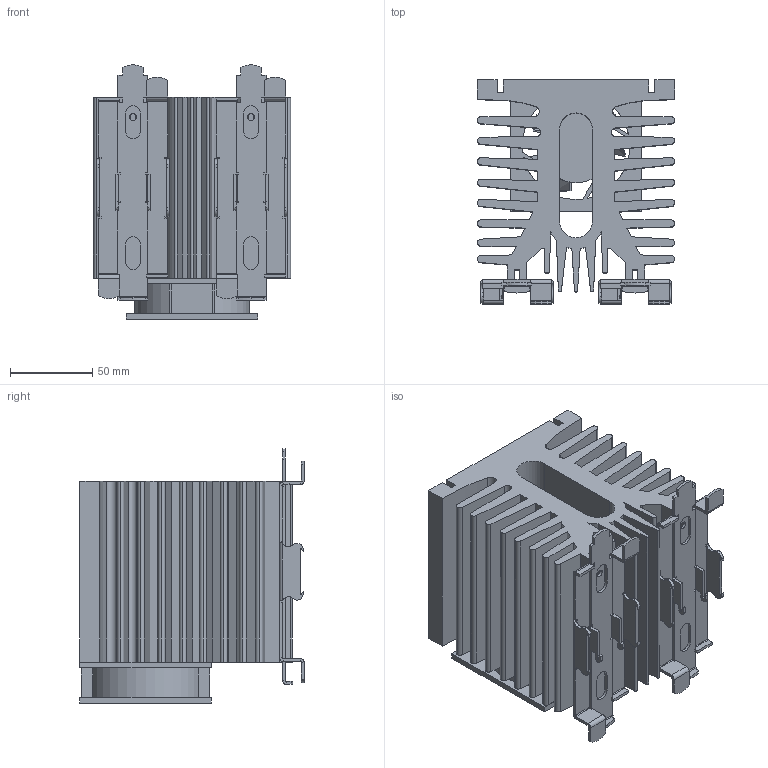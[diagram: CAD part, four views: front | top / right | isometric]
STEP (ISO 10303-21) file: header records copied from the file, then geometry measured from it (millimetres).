
FILE_DESCRIPTION (( 'STEP AP203' ), '1' );
FILE_NAME ('HP-02-F.STEP', '2026-04-16T08:24:03', ( '' ), ( '' ), 'SwSTEP 2.0', 'SolidWorks 2025', '' );
FILE_SCHEMA (( 'CONFIG_CONTROL_DESIGN' ));
Length unit declared in the file: millimetre
Products named in the file (5): cliplock2; Part9; HP-02-F; Part8; Cliplock1
Assembly tree (6 placements, depth 2):
  HP-02-F
    Part8
    Part9
    Cliplock1  x2
    cliplock2  x2
Bounding box: 120 x 136.51 x 154.76 mm (x, y, z)
Volume: 986241 mm3; surface area: 304535.2 mm2
Topology: 14 solids, 14 shells, 622 faces, 1609 edges, 1014 vertices
Faces by surface type: plane 432, cylinder 160, bspline 30
Entity records: 13643 total; most frequent: CARTESIAN_POINT 2548, ORIENTED_EDGE 2218, DIRECTION 2145, EDGE_CURVE 1109, LINE 867, VECTOR 867, VERTEX_POINT 710, AXIS2_PLACEMENT_3D 639
